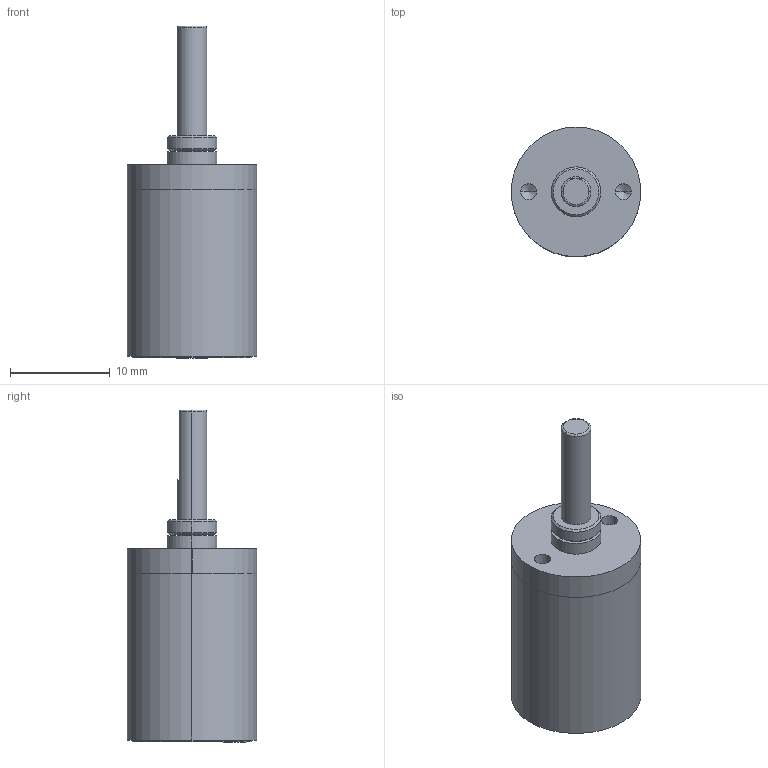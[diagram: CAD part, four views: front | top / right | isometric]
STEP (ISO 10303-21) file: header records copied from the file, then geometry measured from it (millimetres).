
FILE_DESCRIPTION (( 'STEP AP203' ), '1' );
FILE_NAME ('IG-13(I)-3stage.STEP', '2023-03-27T02:28:26', ( '' ), ( '' ), 'SwSTEP 2.0', 'SolidWorks 2019', '' );
FILE_SCHEMA (( 'CONFIG_CONTROL_DESIGN' ));
Length unit declared in the file: millimetre
Products named in the file (1): IG-13(I)-3stage
Bounding box: 13 x 13 x 33.3 mm (x, y, z)
Volume: 2964.1 mm3; surface area: 1690.4 mm2
Topology: 2 solids, 2 shells, 53 faces, 112 edges, 69 vertices
Faces by surface type: cylinder 28, plane 14, cone 8, torus 3
Entity records: 1514 total; most frequent: DIRECTION 281, CARTESIAN_POINT 249, ORIENTED_EDGE 216, AXIS2_PLACEMENT_3D 121, EDGE_CURVE 108, VERTEX_POINT 69, CIRCLE 67, EDGE_LOOP 67
